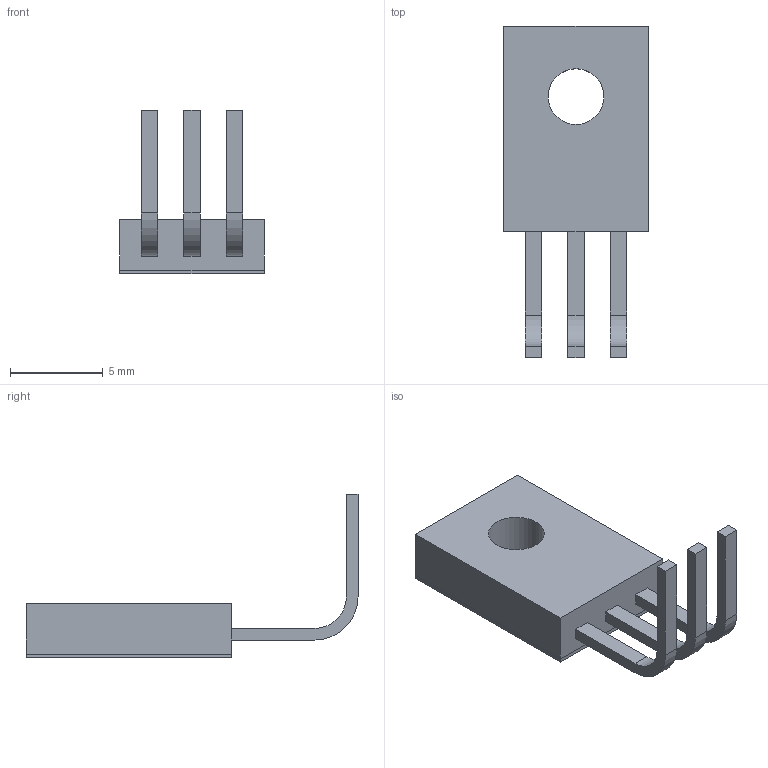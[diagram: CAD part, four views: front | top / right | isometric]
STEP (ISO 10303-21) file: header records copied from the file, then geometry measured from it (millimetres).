
FILE_DESCRIPTION(('Open CASCADE Model'),'2;1');
FILE_NAME('Open CASCADE Shape Model','2026-10-21T15:58:52',('Author'),( 'Open CASCADE'),'Open CASCADE STEP processor 7.9','Open CASCADE 7.9' ,'Unknown');
FILE_SCHEMA(('AUTOMOTIVE_DESIGN { 1 0 10303 214 1 1 1 1 }'));
Length unit declared in the file: millimetre
Products named in the file (6): 8c24abbe-cd57-11f1-aaf3-f197ec47fad9; Q402_tab; Q402_body; Q402_lead3; Q402_lead2; Q402_lead1
Assembly tree (5 placements, depth 2):
  8c24abbe-cd57-11f1-aaf3-f197ec47fad9
    Q402_tab
    Q402_body
    Q402_lead3
    Q402_lead2
    Q402_lead1
Bounding box: 7.8 x 17.86 x 8.8 mm (x, y, z)
Volume: 251.4 mm3; surface area: 575.8 mm2
Topology: 5 solids, 5 shells, 44 faces, 102 edges, 68 vertices
Faces by surface type: plane 36, cylinder 8
Full cylindrical faces by diameter (mm): 3 x2
Entity records: 2741 total; most frequent: CARTESIAN_POINT 484, DIRECTION 412, LINE 274, VECTOR 274, ORIENTED_EDGE 204, PCURVE 204, DEFINITIONAL_REPRESENTATION 204, EDGE_CURVE 102
